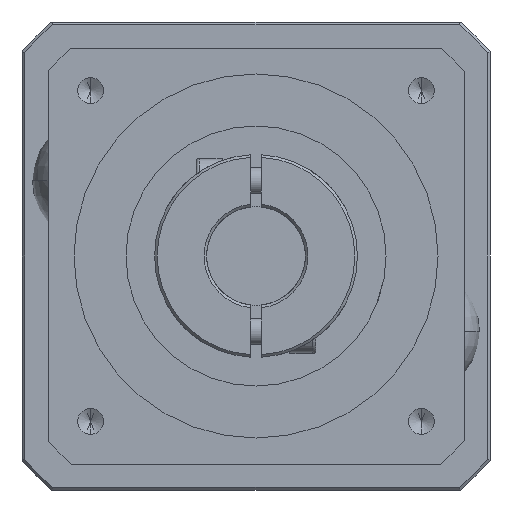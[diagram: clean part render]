
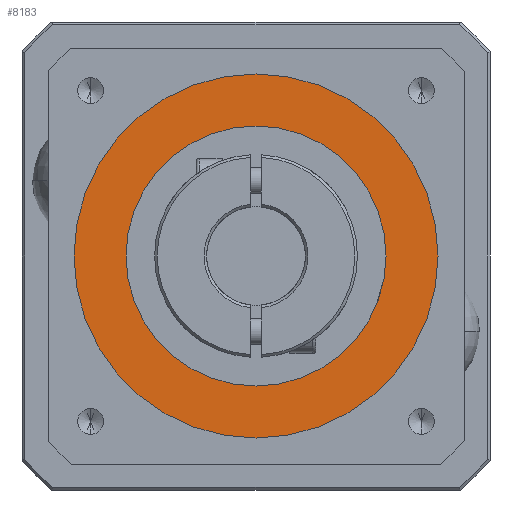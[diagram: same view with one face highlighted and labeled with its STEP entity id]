
A CAD part, left-side view. The second image highlights one B-rep face of the part: STEP entity #8183.
In plain terms, the highlighted planar face has unit normal (-1, 0, 0) as drawn and (0, 0, 1) by its records, which use the part's own axes.
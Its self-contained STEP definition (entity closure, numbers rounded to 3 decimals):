
#193 = DIRECTION ( 'NONE',  ( 0., 0., 1. ) ) ;
#281 = ORIENTED_EDGE ( 'NONE', *, *, #8987, .F. ) ;
#407 = CARTESIAN_POINT ( 'NONE',  ( -25., 0., 33.5 ) ) ;
#470 = AXIS2_PLACEMENT_3D ( 'NONE', #3656, #8661, #4385 ) ;
#593 = CARTESIAN_POINT ( 'NONE',  ( 35., 0., 33.5 ) ) ;
#620 = EDGE_LOOP ( 'NONE', ( #6616, #281 ) ) ;
#963 = DIRECTION ( 'NONE',  ( 0., 0., 1. ) ) ;
#1048 = ORIENTED_EDGE ( 'NONE', *, *, #8020, .T. ) ;
#1698 = FACE_OUTER_BOUND ( 'NONE', #8219, .T. ) ;
#1887 = VERTEX_POINT ( 'NONE', #407 ) ;
#2329 = AXIS2_PLACEMENT_3D ( 'NONE', #4110, #6249, #5542 ) ;
#2748 = CARTESIAN_POINT ( 'NONE',  ( 0., 0., 33.5 ) ) ;
#2913 = CIRCLE ( 'NONE', #4627, 25. ) ;
#3434 = VERTEX_POINT ( 'NONE', #7012 ) ;
#3447 = DIRECTION ( 'NONE',  ( 1., 0., 0. ) ) ;
#3656 = CARTESIAN_POINT ( 'NONE',  ( 0., 0., 33.5 ) ) ;
#4110 = CARTESIAN_POINT ( 'NONE',  ( 0., 0., 33.5 ) ) ;
#4385 = DIRECTION ( 'NONE',  ( 1., 0., 0. ) ) ;
#4490 = CARTESIAN_POINT ( 'NONE',  ( 0., 0., 33.5 ) ) ;
#4627 = AXIS2_PLACEMENT_3D ( 'NONE', #4490, #193, #5195 ) ;
#4816 = PLANE ( 'NONE',  #2329 ) ;
#5195 = DIRECTION ( 'NONE',  ( 1., 0., 0. ) ) ;
#5232 = CARTESIAN_POINT ( 'NONE',  ( 0., 0., 33.5 ) ) ;
#5449 = EDGE_CURVE ( 'NONE', #8687, #1887, #2913, .T. ) ;
#5542 = DIRECTION ( 'NONE',  ( 1., 0., 0. ) ) ;
#5561 = CIRCLE ( 'NONE', #470, 35. ) ;
#5921 = CIRCLE ( 'NONE', #8483, 25. ) ;
#5957 = DIRECTION ( 'NONE',  ( 1., 0., 0. ) ) ;
#6249 = DIRECTION ( 'NONE',  ( 0., 0., 1. ) ) ;
#6616 = ORIENTED_EDGE ( 'NONE', *, *, #5449, .F. ) ;
#7012 = CARTESIAN_POINT ( 'NONE',  ( -35., 0., 33.5 ) ) ;
#7274 = CIRCLE ( 'NONE', #8899, 35. ) ;
#7650 = ORIENTED_EDGE ( 'NONE', *, *, #9149, .T. ) ;
#7699 = DIRECTION ( 'NONE',  ( 0., 0., 1. ) ) ;
#7811 = FACE_BOUND ( 'NONE', #620, .T. ) ;
#8020 = EDGE_CURVE ( 'NONE', #3434, #8206, #7274, .T. ) ;
#8183 = ADVANCED_FACE ( 'NONE', ( #7811, #1698 ), #4816, .T. ) ;
#8206 = VERTEX_POINT ( 'NONE', #593 ) ;
#8219 = EDGE_LOOP ( 'NONE', ( #7650, #1048 ) ) ;
#8483 = AXIS2_PLACEMENT_3D ( 'NONE', #2748, #7699, #3447 ) ;
#8661 = DIRECTION ( 'NONE',  ( 0., 0., 1. ) ) ;
#8687 = VERTEX_POINT ( 'NONE', #9048 ) ;
#8899 = AXIS2_PLACEMENT_3D ( 'NONE', #5232, #963, #5957 ) ;
#8987 = EDGE_CURVE ( 'NONE', #1887, #8687, #5921, .T. ) ;
#9048 = CARTESIAN_POINT ( 'NONE',  ( 25., 0., 33.5 ) ) ;
#9149 = EDGE_CURVE ( 'NONE', #8206, #3434, #5561, .T. ) ;
